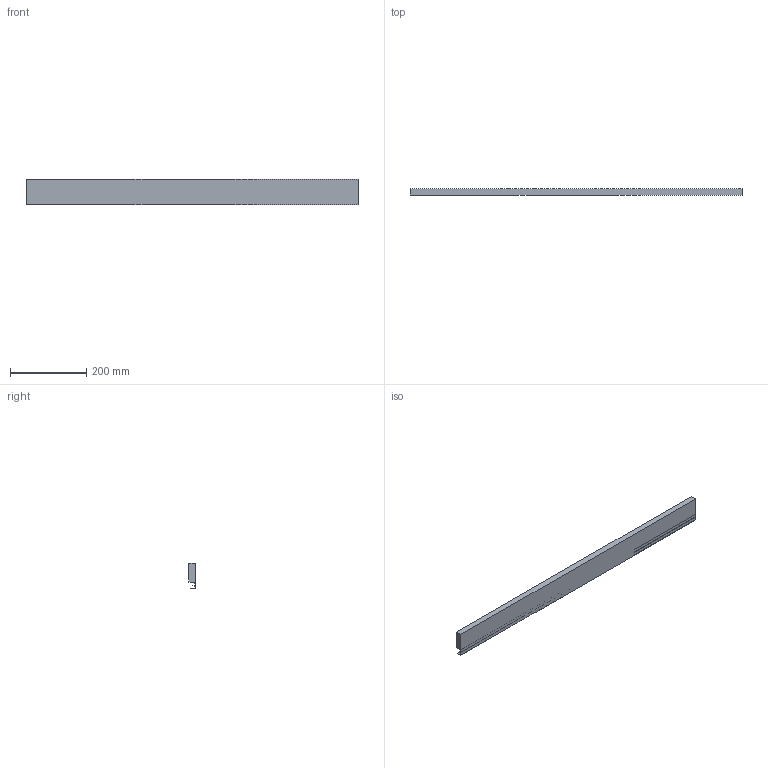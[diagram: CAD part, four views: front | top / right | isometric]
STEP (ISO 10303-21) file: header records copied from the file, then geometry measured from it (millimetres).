
FILE_DESCRIPTION (( 'STEP AP214' ), '1' );
FILE_NAME ('Innenschub-Blendenprofil_KAB1000_S19.step', '2010-09-23T12:27:13', ( 'grass' ), ( '' ), 'SwSTEP 2.0', 'SolidWorks 2010', '' );
FILE_SCHEMA (( 'AUTOMOTIVE_DESIGN' ));
Length unit declared in the file: millimetre
Products named in the file (1): Innenschub-Blendenprofil_KAB1000_S19
Bounding box: 871 x 15.9 x 67.6 mm (x, y, z)
Volume: 722211.8 mm3; surface area: 172583.2 mm2
Topology: 1 solids, 1 shells, 17 faces, 42 edges, 28 vertices
Faces by surface type: plane 15, cylinder 2
Entity records: 534 total; most frequent: CARTESIAN_POINT 88, ORIENTED_EDGE 84, DIRECTION 82, EDGE_CURVE 42, VECTOR 38, LINE 38, VERTEX_POINT 28, AXIS2_PLACEMENT_3D 22
